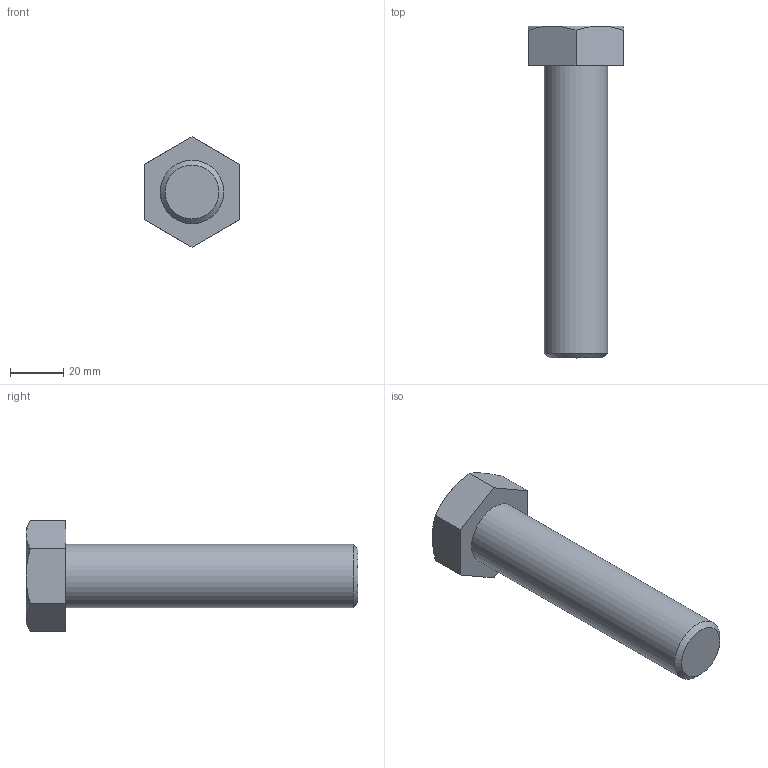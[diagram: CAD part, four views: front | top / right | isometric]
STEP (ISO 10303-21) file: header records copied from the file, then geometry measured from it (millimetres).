
FILE_DESCRIPTION(/* description */ (''),/* implementation_level */ '2;1');
FILE_NAME(/* name */ 'C:\Users\unitec\Documents\Inventor\各種小物\JIS\JIS B 1180 六角ボルト 等級C\hbc24\M24x110.stp',/* time_stamp */ '2015-02-13T14:54:31+09:00',/* author */ ('unitec'),/* organization */ (''),/* preprocessor_version */ 'ST-DEVELOPER v15.2',/* originating_system */ 'Autodesk Inventor 2014',/* authorisation */ '');
FILE_SCHEMA (('AUTOMOTIVE_DESIGN { 1 0 10303 214 3 1 1 }'));
Length unit declared in the file: millimetre
Products named in the file (1): M24x110
Bounding box: 36 x 125 x 41.57 mm (x, y, z)
Volume: 66426.6 mm3; surface area: 12270.9 mm2
Topology: 1 solids, 1 shells, 17 faces, 35 edges, 21 vertices
Faces by surface type: plane 9, cone 7, cylinder 1
Full cylindrical faces by diameter (mm): 24 x1
Entity records: 441 total; most frequent: CARTESIAN_POINT 96, ORIENTED_EDGE 66, DIRECTION 66, EDGE_CURVE 33, AXIS2_PLACEMENT_3D 27, VERTEX_POINT 21, EDGE_LOOP 20, ADVANCED_FACE 17
